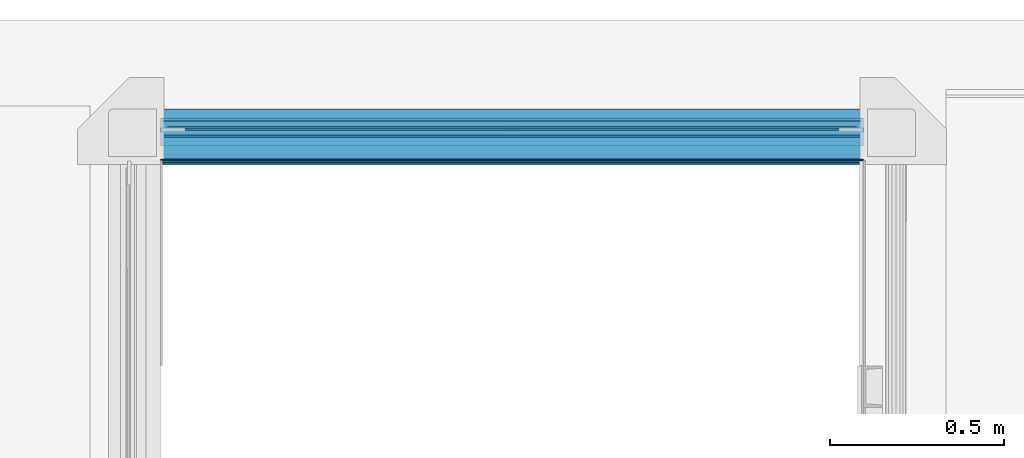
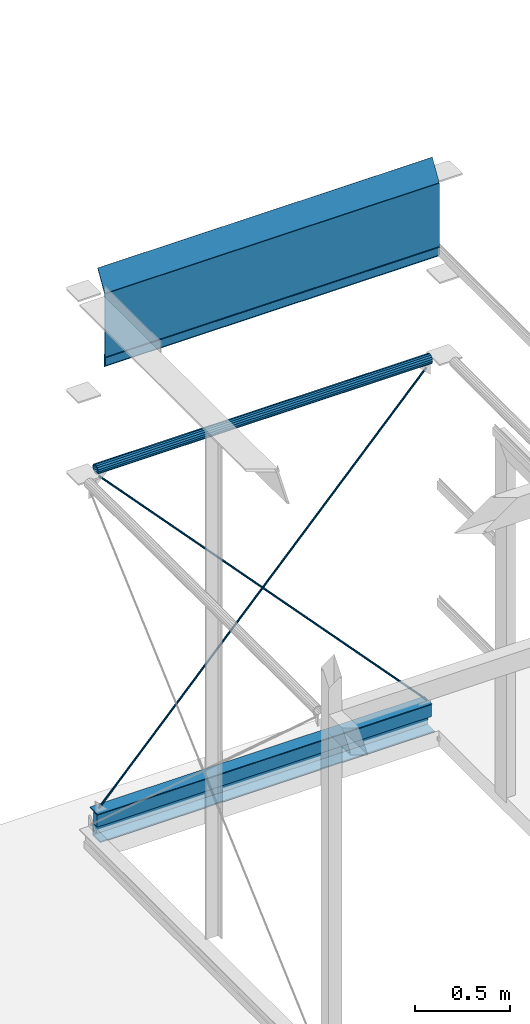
# One storey, part 9 of 15: 10 beams.
"""IFC2X3 building model written with IfcOpenShell, lengths in millimetres."""

from ifc_helpers import new_model, entity, si_unit, converted_unit, derived_unit, direction, frame, origin_with_axes, place, context, subcontext, project, spatial, faceted_brep, material, type_object, element, save


model = new_model("IFC2X3")

# Units and contexts
model_context = context("Model", 3, precision=0.01, world=frame((0.0, 4.29681676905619e-09, 0.0)), true_north=direction((4.01073788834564e-13, 1.0)))
plan_context = context("Plan", 3, precision=0.01, world=frame((0.0, 4.29681676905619e-09, 0.0)), true_north=direction((4.01073788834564e-13, 1.0)))
body_context = subcontext(model_context, "Body", "Model", "MODEL_VIEW")
ifc_project = project(units=[converted_unit("PLANEANGLEUNIT", "DEGREE", entity("IfcPositiveLengthMeasure", 0.0174532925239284), si_unit("PLANEANGLEUNIT", "RADIAN"), dimensions=[0, 0, 0, 0, 0, 0, 0]), si_unit("AREAUNIT", "SQUARE_METRE"), si_unit("LENGTHUNIT", "METRE", prefix="MILLI"), si_unit("MASSUNIT", "GRAM", prefix="KILO"), si_unit("POWERUNIT", "WATT"), si_unit("PRESSUREUNIT", "PASCAL", prefix="KILO"), si_unit("FORCEUNIT", "NEWTON", prefix="KILO"), si_unit("ELECTRICVOLTAGEUNIT", "VOLT"), si_unit("ELECTRICCURRENTUNIT", "AMPERE"), si_unit("THERMODYNAMICTEMPERATUREUNIT", "DEGREE_CELSIUS"), si_unit("TIMEUNIT", "SECOND"), si_unit("VOLUMEUNIT", "CUBIC_METRE"), derived_unit("LINEARVELOCITYUNIT", [(si_unit("LENGTHUNIT", "METRE"), 1), (si_unit("TIMEUNIT", "SECOND"), -1)]), derived_unit("VOLUMETRICFLOWRATEUNIT", [(si_unit("VOLUMEUNIT", "CUBIC_METRE"), 1), (si_unit("TIMEUNIT", "SECOND"), -1)]), derived_unit("THERMALTRANSMITTANCEUNIT", [(si_unit("POWERUNIT", "WATT"), 1), (si_unit("THERMODYNAMICTEMPERATUREUNIT", "KELVIN"), -1), (si_unit("AREAUNIT", "SQUARE_METRE"), -1)]), derived_unit("SOUNDPRESSUREUNIT", [(si_unit("PRESSUREUNIT", "PASCAL"), 1)])], contexts=[model_context, plan_context])

# Site, building, storey
site_placement = place(None, frame((0.0, -4.29681676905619e-09, 0.0), z_axis=(0.0, 0.0, 1.0), x_axis=(1.0, 0.0, 0.0)))
site = spatial("IfcSite", under=ifc_project, at=site_placement, Name="Gardermoen", CompositionType="ELEMENT")
building_placement = place(site_placement, frame((0.0, 4.29681676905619e-09, 0.0), z_axis=(0.0, 0.0, 1.0), x_axis=(1.0, 0.0, 0.0)))
building = spatial("IfcBuilding", under=site, at=building_placement, Name="TG", CompositionType="ELEMENT")
storey_placement = place(building_placement, origin_with_axes())
storey = spatial("IfcBuildingStorey", under=building, at=storey_placement, Name="F", CompositionType="ELEMENT", Elevation=0.0)

# Beams
ifc_material = material(Name="STEEL/S355")
beam_type_1 = type_object("IfcBeamType", Name="RØR60.3X5.0", PredefinedType="NOTDEFINED")
beam_1_placement = place(storey_placement, frame((323987.857743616, 467187.829521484, 212455.000241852), z_axis=(0.0, 0.0, 1.0), x_axis=(0.999999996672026, 8.15839999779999e-05, 0.0)))
element("IfcBeam", 1, at=beam_1_placement, inside=storey, type_object=beam_type_1, material=ifc_material, Name="STÅLBJELKE", ObjectType="RØR60.3X5.0", context=body_context, shape_type="Brep", body=[
    faceted_brep([(4.07453626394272e-10, -25.1499999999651, 0.0), (5.82076609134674e-10, -23.2355702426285, 9.62448832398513), (2024.15940186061, -23.235570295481, 9.62448832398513), (2024.15940186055, -25.1500000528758, 0.0), (6.40284270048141e-10, -17.7837355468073, 17.7837355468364), (2024.15940186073, -17.7837355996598, 17.7837355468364), (6.40284270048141e-10, -9.62448832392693, 23.2355702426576), (2024.15940186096, -9.62448837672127, 23.2355702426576), (5.23868948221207e-10, 5.82076609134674e-11, 25.1499999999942), (2024.15940186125, -5.26197254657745e-08, 25.1499999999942), (3.49245965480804e-10, 9.62448832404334, 23.2355702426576), (2024.15940186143, 9.62448827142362, 23.2355702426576), (5.82076609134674e-11, 17.7837355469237, 17.7837355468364), (2024.15940186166, 17.7837354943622, 17.7837355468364), (-1.74622982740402e-10, 23.2355702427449, 9.62448832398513), (2024.15940186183, 23.2355701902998, 9.62448832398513), (-3.49245965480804e-10, 25.1500000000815, 0.0), (2024.15940186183, 25.1499999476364, 0.0), (-5.82076609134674e-10, 23.2355702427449, -9.62448832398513), (2024.15940186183, 23.2355701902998, -9.62448832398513), (-6.40284270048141e-10, 17.7837355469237, -17.7837355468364), (2024.15940186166, 17.7837354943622, -17.7837355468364), (-6.40284270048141e-10, 9.62448832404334, -23.2355702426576), (2024.15940186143, 9.62448827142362, -23.2355702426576), (-5.23868948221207e-10, 5.82076609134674e-11, -25.1499999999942), (2024.15940186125, -5.26197254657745e-08, -25.1499999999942), (-3.49245965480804e-10, -9.62448832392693, -23.2355702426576), (2024.15940186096, -9.62448837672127, -23.2355702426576), (-5.82076609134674e-11, -17.7837355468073, -17.7837355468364), (2024.15940186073, -17.7837355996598, -17.7837355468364), (1.74622982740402e-10, -23.2355702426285, -9.62448832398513), (2024.15940186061, -23.235570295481, -9.62448832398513), (4.65661287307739e-10, -30.1499999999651, 0.0), (1.74622982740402e-10, -27.8549679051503, -11.5379054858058), (2024.1594018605, -27.854967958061, -11.5379054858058), (2024.15940186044, -30.150000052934, 0.0), (-1.16415321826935e-10, -21.3192694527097, -21.3192694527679), (2024.15940186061, -21.3192695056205, -21.3192694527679), (-4.07453626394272e-10, -11.5379054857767, -27.8549679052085), (2024.1594018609, -11.5379055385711, -27.8549679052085), (-6.40284270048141e-10, 5.82076609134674e-11, -30.1499999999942), (2024.15940186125, -5.26197254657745e-08, -30.1499999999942), (-7.56699591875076e-10, 11.5379054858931, -27.8549679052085), (2024.15940186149, 11.5379054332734, -27.8549679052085), (-8.14907252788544e-10, 21.3192694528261, -21.3192694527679), (2024.15940186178, 21.319269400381, -21.3192694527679), (-7.56699591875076e-10, 27.8549679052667, -11.5379054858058), (2024.15940186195, 27.8549678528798, -11.5379054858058), (-4.65661287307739e-10, 30.1500000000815, 0.0), (2024.15940186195, 30.1499999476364, 0.0), (-2.3283064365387e-10, 27.8549679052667, 11.5379054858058), (2024.15940186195, 27.8549678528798, 11.5379054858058), (5.82076609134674e-11, 21.3192694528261, 21.3192694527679), (2024.15940186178, 21.319269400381, 21.3192694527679), (4.07453626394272e-10, 11.5379054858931, 27.8549679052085), (2024.15940186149, 11.5379054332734, 27.8549679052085), (6.40284270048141e-10, 5.82076609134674e-11, 30.1499999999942), (2024.15940186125, -5.26197254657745e-08, 30.1499999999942), (7.56699591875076e-10, -11.5379054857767, 27.8549679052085), (2024.1594018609, -11.5379055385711, 27.8549679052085), (7.56699591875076e-10, -21.3192694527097, 21.3192694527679), (2024.15940186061, -21.3192695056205, 21.3192694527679), (6.98491930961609e-10, -27.8549679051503, 11.5379054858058), (2024.1594018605, -27.854967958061, 11.5379054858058)], [[[0, 1, 2, 3]], [[1, 4, 5, 2]], [[4, 6, 7, 5]], [[6, 8, 9, 7]], [[8, 10, 11, 9]], [[10, 12, 13, 11]], [[12, 14, 15, 13]], [[14, 16, 17, 15]], [[16, 18, 19, 17]], [[18, 20, 21, 19]], [[20, 22, 23, 21]], [[22, 24, 25, 23]], [[24, 26, 27, 25]], [[26, 28, 29, 27]], [[28, 30, 31, 29]], [[30, 0, 3, 31]], [[32, 33, 34, 35]], [[33, 36, 37, 34]], [[36, 38, 39, 37]], [[38, 40, 41, 39]], [[40, 42, 43, 41]], [[42, 44, 45, 43]], [[44, 46, 47, 45]], [[46, 48, 49, 47]], [[48, 50, 51, 49]], [[50, 52, 53, 51]], [[52, 54, 55, 53]], [[54, 56, 57, 55]], [[56, 58, 59, 57]], [[58, 60, 61, 59]], [[60, 62, 63, 61]], [[62, 32, 35, 63]], [[37, 39, 41, 43, 45, 47, 49, 51, 53, 55, 57, 59, 61, 63, 35, 34], [5, 7, 9, 11, 13, 15, 17, 19, 21, 23, 25, 27, 29, 31, 3, 2]], [[62, 60, 58, 56, 54, 52, 50, 48, 46, 44, 42, 40, 38, 36, 33, 32], [30, 28, 26, 24, 22, 20, 18, 16, 14, 12, 10, 8, 6, 4, 1, 0]]]),
])
beam_type_2 = type_object("IfcBeamType", Name="RHS80*40*4", PredefinedType="NOTDEFINED")
beam_2_placement = place(storey_placement, frame((323987.857743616, 467189.664526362, 210215.000257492), z_axis=(0.0, 0.0, 1.0), x_axis=(0.999999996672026, 8.15839999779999e-05, 0.0)))
element("IfcBeam", 2, at=beam_2_placement, inside=storey, type_object=beam_type_2, material=ifc_material, Name="STÅLBJELKE", ObjectType="RHS80*40*4", context=body_context, shape_type="Brep", body=[
    faceted_brep([(0.0, 16.0, -36.0), (0.0, -16.0, -36.0), (2024.15939510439, -16.0, -36.0), (2024.15939510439, 16.0, -36.0), (0.0, -16.0, 36.0), (2024.15939510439, -16.0, 36.0), (0.0, 16.0, 36.0), (2024.15939510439, 16.0, 36.0), (0.0, 20.0, -40.0), (0.0, 20.0, 40.0), (2024.15939510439, 20.0, 40.0), (2024.15939510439, 20.0, -40.0), (0.0, -20.0, 40.0), (2024.15939510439, -20.0, 40.0), (0.0, -20.0, -40.0), (2024.15939510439, -20.0, -40.0)], [[[0, 1, 2, 3]], [[1, 4, 5, 2]], [[4, 6, 7, 5]], [[6, 0, 3, 7]], [[8, 9, 10, 11]], [[9, 12, 13, 10]], [[12, 14, 15, 13]], [[14, 8, 11, 15]], [[13, 15, 11, 10], [5, 7, 3, 2]], [[14, 12, 9, 8], [6, 4, 1, 0]]]),
])
beam_type_3 = type_object("IfcBeamType", Name="L80*8", PredefinedType="NOTDEFINED")
beam_3_placement = place(storey_placement, frame((323987.857743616, 467177.16433849, 210135.000095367), z_axis=(0.0, 0.0, 1.0), x_axis=(0.999999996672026, 8.15839999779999e-05, 0.0)))
element("IfcBeam", 3, at=beam_3_placement, inside=storey, type_object=beam_type_3, material=ifc_material, Name="STÅLBJELKE", ObjectType="L80*8", context=body_context, shape_type="Brep", body=[
    faceted_brep([(0.0, 40.0, -40.0), (4.98403096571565e-10, 40.0000000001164, 40.0), (2024.15940205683, 39.9999999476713, 40.0), (2024.15940205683, 39.9999999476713, -40.0), (0.0, 32.0, 40.0), (2024.1594020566, 31.9999999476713, 40.0), (0.0, 32.0, -32.0), (2024.1594020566, 31.9999999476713, -32.0), (0.0, -40.0, -32.0), (2024.15940205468, -40.0000000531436, -32.0), (0.0, -40.0, -40.0), (2024.15940205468, -40.0000000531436, -40.0)], [[[0, 1, 2, 3]], [[1, 4, 5, 2]], [[4, 6, 7, 5]], [[6, 8, 9, 7]], [[8, 10, 11, 9]], [[10, 0, 3, 11]], [[5, 7, 9, 11, 3, 2]], [[10, 8, 6, 4, 1, 0]]]),
])
beam_type_4 = type_object("IfcBeamType", Name="PL5*140", PredefinedType="NOTDEFINED")
beam_4_placement = place(storey_placement, frame((323987.857743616, 467164.686540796, 213756.287891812), z_axis=(0.0, -0.514996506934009, -0.85719227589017), x_axis=(1.0, 0.0, 0.0)))
element("IfcBeam", 4, at=beam_4_placement, inside=storey, type_object=beam_type_4, material=ifc_material, Name="STÅLBJELKE", ObjectType="PL5*140", context=body_context, shape_type="Brep", body=[
    faceted_brep([(-2.91038304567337e-11, -2.5, 5.82076609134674e-11), (-6.25383108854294e-07, -2.50000000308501, 139.806777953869), (-6.25383108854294e-07, 2.49999999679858, 139.806777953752), (-2.91038304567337e-11, 2.50000000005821, 1.16415321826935e-10), (2024.15942382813, -2.50000000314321, 139.806793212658), (2024.15942382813, 2.49999999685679, 139.806793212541), (2024.15942382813, -2.5, 1.80443748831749e-09), (2024.15942382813, 2.5, 1.80443748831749e-09)], [[[0, 1, 2, 3]], [[1, 4, 5, 2]], [[4, 6, 7, 5]], [[6, 0, 3, 7]], [[5, 7, 3, 2]], [[6, 4, 1, 0]]]),
])
beam_type_5 = type_object("IfcBeamType", Name="D12", PredefinedType="NOTDEFINED")
for number, where, z_axis, x_axis in (
    (5, (325990.577015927, 467187.828368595, 210280.37546335), (0.731249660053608, -6.17980000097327e-05, 0.682109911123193), (-0.682109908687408, 5.76449999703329e-05, 0.731249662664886)),
    (6, (324009.21539333, 467187.828368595, 210280.375463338), (-0.731249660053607, -6.17980000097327e-05, 0.682109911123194), (0.682109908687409, 5.76449999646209e-05, 0.731249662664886)),
):
    element("IfcBeam", number, at=place(storey_placement, frame(where, z_axis=z_axis, x_axis=x_axis)), inside=storey, type_object=beam_type_5, material=ifc_material, Name="STÅLBJELKE", ObjectType="D12", context=body_context, shape_type="Brep", body=[
        faceted_brep([(0.0, -6.0, 0.0), (5.82076609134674e-11, -4.24264068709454, -4.24264068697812), (2904.7542002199, -4.24264076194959, -4.24264063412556), (2904.75420021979, -6.00000007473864, 5.30853867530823e-08), (8.73114913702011e-11, 0.0, -5.99999999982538), (2904.75420021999, -7.47968442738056e-08, -5.99999994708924), (5.82076609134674e-11, 4.24264068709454, -4.24264068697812), (2904.75420021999, 4.24264061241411, -4.24264063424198), (0.0, 6.0, 0.0), (2904.75420021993, 5.99999992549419, 5.28525561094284e-08), (-5.82076609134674e-11, 4.24264068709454, 4.24264068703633), (2904.75420021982, 4.24264061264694, 4.24264074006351), (-5.82076609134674e-11, 0.0, 5.99999999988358), (2904.75420021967, -7.44475983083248e-08, 6.00000005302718), (-5.82076609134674e-11, -4.24264068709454, 4.24264068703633), (2904.75420021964, -4.24264076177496, 4.24264074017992)], [[[0, 1, 2, 3]], [[1, 4, 5, 2]], [[4, 6, 7, 5]], [[6, 8, 9, 7]], [[8, 10, 11, 9]], [[10, 12, 13, 11]], [[12, 14, 15, 13]], [[14, 0, 3, 15]], [[5, 7, 9, 11, 13, 15, 3, 2]], [[14, 12, 10, 8, 6, 4, 1, 0]]]),
    ])
beam_type_6 = type_object("IfcBeamType", Name="50*12", PredefinedType="NOTDEFINED")
beam_5_placement = place(storey_placement, frame((323987.857743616, 467088.829521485, 213205.000400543), z_axis=(0.0, 0.0, 1.0), x_axis=(1.0, 0.0, 0.0)))
element("IfcBeam", 7, at=beam_5_placement, inside=storey, type_object=beam_type_6, material=ifc_material, Name="STÅLBJELKE", ObjectType="50*12", context=body_context, shape_type="Brep", body=[
    faceted_brep([(0.0, 6.0, -25.0), (0.0, 6.0, 25.0), (2024.15939510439, 6.0, 25.0), (2024.15939510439, 6.0, -25.0), (0.0, -6.0, 25.0), (2024.15939510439, -6.0, 25.0), (0.0, -6.0, -25.0), (2024.15939510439, -6.0, -25.0)], [[[0, 1, 2, 3]], [[1, 4, 5, 2]], [[4, 6, 7, 5]], [[6, 0, 3, 7]], [[5, 7, 3, 2]], [[6, 4, 1, 0]]]),
])
beam_type_7 = type_object("IfcBeamType", Name="80*5", PredefinedType="NOTDEFINED")
beam_6_placement = place(storey_placement, frame((323987.857743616, 467097.329521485, 213205.000267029), z_axis=(0.0, 0.0, 1.0), x_axis=(1.0, 0.0, 0.0)))
element("IfcBeam", 8, at=beam_6_placement, inside=storey, type_object=beam_type_7, material=ifc_material, Name="STÅLBJELKE", ObjectType="80*5", context=body_context, shape_type="Brep", body=[
    faceted_brep([(0.0, 2.5, -40.0), (0.0, 2.5, 40.0), (2024.15942382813, 2.5, 40.0000076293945), (2024.15939510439, 2.5, -40.0), (0.0, -2.5, 40.0), (2024.15942382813, -2.5, 40.0000076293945), (0.0, -2.5, -40.0), (2024.15939510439, -2.5, -40.0)], [[[0, 1, 2, 3]], [[4, 5, 2, 1]], [[4, 6, 7, 5]], [[6, 0, 3, 7]], [[5, 7, 3, 2]], [[6, 4, 1, 0]]]),
])
beam_type_8 = type_object("IfcBeamType", Name="5*80", PredefinedType="NOTDEFINED")
beam_7_placement = place(storey_placement, frame((323987.857743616, 467204.664382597, 210257.500133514), z_axis=(0.0, 0.0, 1.0), x_axis=(0.999999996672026, 8.15839999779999e-05, 0.0)))
element("IfcBeam", 9, at=beam_7_placement, inside=storey, type_object=beam_type_8, material=ifc_material, Name="STÅLBJELKE", ObjectType="5*80", context=body_context, shape_type="Brep", body=[
    faceted_brep([(-4.65661287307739e-10, 39.9999999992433, -2.5), (-4.65661287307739e-10, 39.9999999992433, 2.5), (2024.15940205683, 39.9999999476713, 2.5), (2024.15940205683, 39.9999999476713, -2.5), (4.07453626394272e-10, -39.9999999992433, 2.5), (2024.15940205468, -40.0000000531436, 2.5), (4.07453626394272e-10, -39.9999999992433, -2.5), (2024.15940205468, -40.0000000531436, -2.5)], [[[0, 1, 2, 3]], [[1, 4, 5, 2]], [[4, 6, 7, 5]], [[6, 0, 3, 7]], [[5, 7, 3, 2]], [[6, 4, 1, 0]]]),
])
beam_type_9 = type_object("IfcBeamType", Name="PL5*405", PredefinedType="NOTDEFINED")
beam_8_placement = place(storey_placement, frame((323987.857743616, 467092.329521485, 213635.159114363), z_axis=(0.0, 0.0, -1.0), x_axis=(1.0, 0.0, 0.0)))
element("IfcBeam", 10, at=beam_8_placement, inside=storey, type_object=beam_type_9, material=ifc_material, Name="STÅLBJELKE", ObjectType="PL5*405", context=body_context, shape_type="Brep", body=[
    faceted_brep([(-2.91038304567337e-11, -2.5, 5.82076609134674e-11), (-6.25383108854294e-07, -2.5, 405.158721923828), (-6.25383108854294e-07, 2.5, 405.158721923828), (-2.91038304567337e-11, 2.50000000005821, 1.16415321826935e-10), (2024.15942382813, -2.5, 405.158752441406), (2024.15942382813, 2.5, 405.158752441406), (2024.15942382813, -2.5, 1.80443748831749e-09), (2024.15942382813, 2.5, 1.80443748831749e-09)], [[[0, 1, 2, 3]], [[1, 4, 5, 2]], [[4, 6, 7, 5]], [[6, 0, 3, 7]], [[5, 7, 3, 2]], [[6, 4, 1, 0]]]),
])

save(model, "model.ifc")
